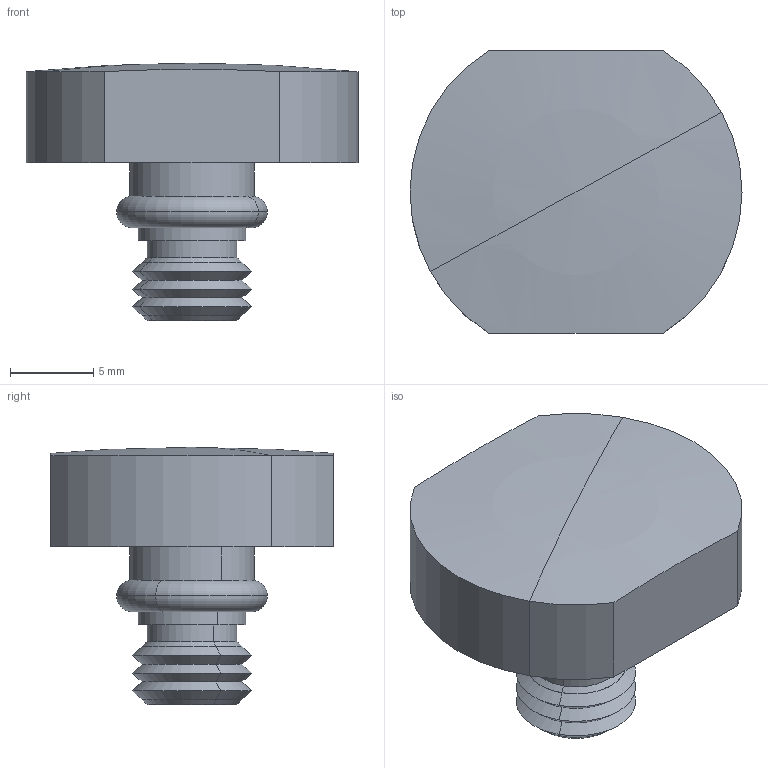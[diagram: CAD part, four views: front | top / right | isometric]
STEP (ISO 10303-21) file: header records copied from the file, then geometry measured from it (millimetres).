
FILE_DESCRIPTION(('CATIA V5 STEP Exchange'),'2;1');
FILE_NAME('W:\CATALOGO GENERAL 2018\FICHEROS CAD\025-ACCESORIOS\06-SUFRIDERAS\TPSC-M6OR-2.stp','2017-11-28T07:26:52+00:00',('none'),('none'),'CATIA Version 5 Release 17 (IN-10)','CATIA V5 STEP AP203','none');
FILE_SCHEMA(('CONFIG_CONTROL_DESIGN'));
Length unit declared in the file: millimetre
Products named in the file (1): TPSC-M6OR-2
Bounding box: 20 x 17 x 15.5 mm (x, y, z)
Volume: 2054.7 mm3; surface area: 1312.9 mm2
Topology: 2 solids, 2 shells, 45 faces, 94 edges, 53 vertices
Faces by surface type: cone 16, cylinder 12, torus 8, plane 7, sphere 2
Entity records: 1104 total; most frequent: CARTESIAN_POINT 201, ORIENTED_EDGE 184, DIRECTION 144, EDGE_CURVE 92, AXIS2_PLACEMENT_3D 86, CIRCLE 58, VERTEX_POINT 53, EDGE_LOOP 49
